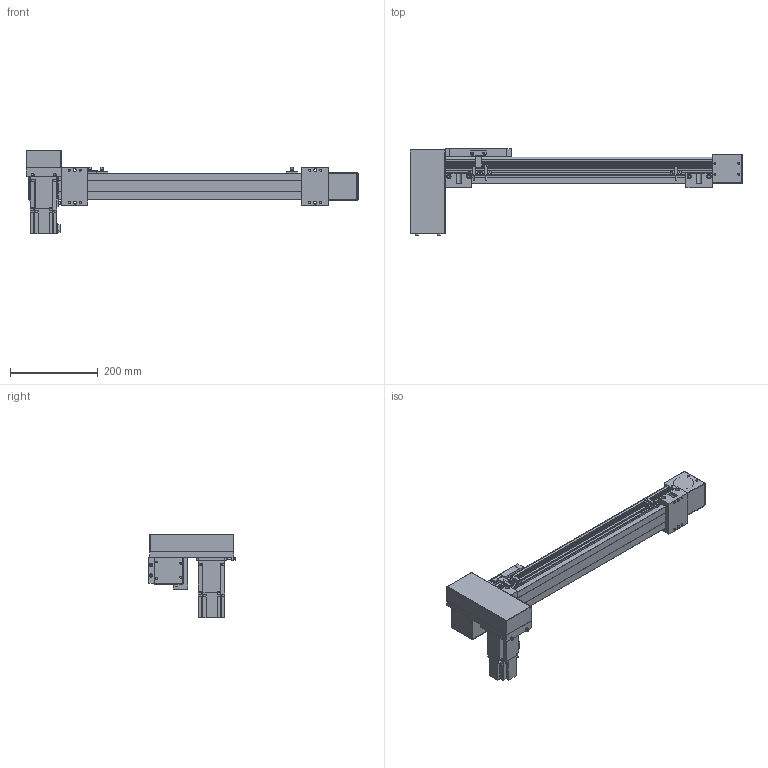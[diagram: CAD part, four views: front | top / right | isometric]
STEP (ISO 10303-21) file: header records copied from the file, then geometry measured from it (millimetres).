
FILE_DESCRIPTION(/* description */ ('STEP AP214'),/* implementation_level */ '2;1');
FILE_NAME(/* name */ 'SK60-P13-S450-RD-T40-C1-N(0)',/* time_stamp */ '2023-04-06T04:55:06+02:00',/* author */ ('License CC BY-ND 4.0'),/* organization */ ('CADENAS'),/* preprocessor_version */ 'ST-DEVELOPER v19.3',/* originating_system */ 'PARTsolutions',/* authorisation */ ' ');
FILE_SCHEMA (('AUTOMOTIVE_DESIGN {1 0 10303 214 3 1 1}'));
Length unit declared in the file: millimetre
Products named in the file (10): SK60-P13-S450-RD-T40-C1-N(0); PSC140-sensor; SK60-S450_seat; SK60-S450-BL-C1_slider; SK60_body3; SK60_body6; SK60-BL_body2; T40-p1; SK60-RD_fb; SK60-S450-RD-C1_body
Assembly tree (16 placements, depth 2):
  SK60-P13-S450-RD-T40-C1-N(0)
    PSC140-sensor  x3
    SK60-S450_seat  x2
    SK60-S450-BL-C1_slider
    SK60_body3  x3
    SK60_body6  x2
    SK60-BL_body2  x2
    T40-p1
    SK60-RD_fb
    SK60-S450-RD-C1_body
Bounding box: 755.5 x 199 x 189.7 mm (x, y, z)
Volume: 3806199.2 mm3; surface area: 515223.4 mm2
Topology: 16 solids, 16 shells, 810 faces, 2048 edges, 1349 vertices
Faces by surface type: plane 524, cylinder 262, cone 22, torus 2
Full cylindrical faces by diameter (mm): 2.8 x3, 3.3 x4, 4 x2, 4.5 x30, 4.6 x3, 4.917 x16, 5 x6, 5.478 x4, 5.5 x19, 6.5 x4, 7 x2, 8 x4, 8.5 x4, 9.988 x4, 10 x8, 14 x1, 47 x3, 50 x2
Entity records: 18655 total; most frequent: DIRECTION 3184, CARTESIAN_POINT 3150, ORIENTED_EDGE 2940, EDGE_CURVE 1470, AXIS2_PLACEMENT_3D 1068, LINE 1048, VECTOR 1048, VERTEX_POINT 1034
